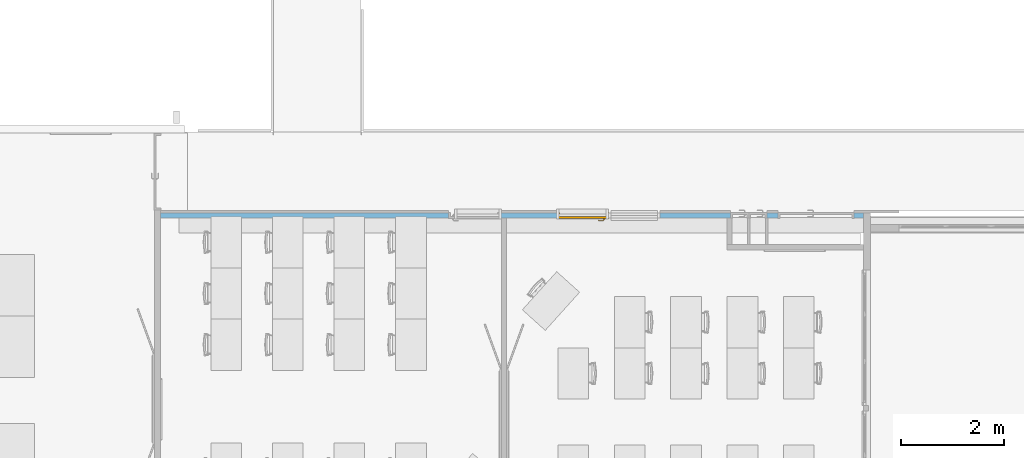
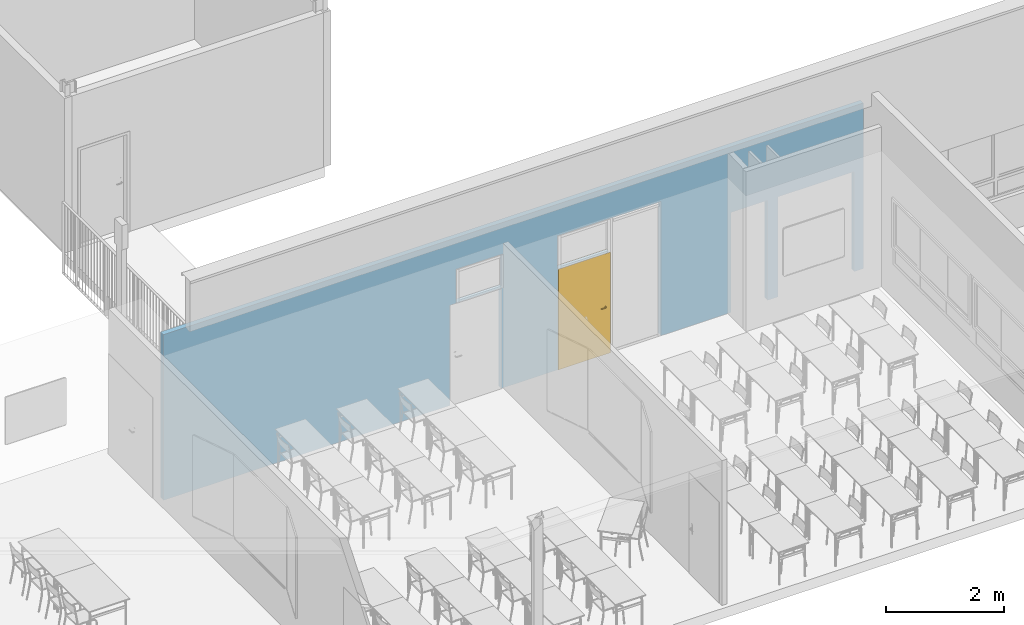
# One storey, part 33 of 44: 1 door, 8 openings, plus 1 element that does not belong to this part.
"""IFC2X3 building model written with IfcOpenShell, lengths in centimetres."""

from ifc_helpers import new_model, entity, si_unit, converted_unit, derived_unit, direction, frame, frame_2d, origin, place, context, subcontext, project, spatial, rectangle, extrude, faceted_brep, source, transform, mapped, material, material_list, layer, layer_set, layer_usage, type_object, type_shapes, element, fill, save


model = new_model("IFC2X3")

# Units and contexts
model_context = context("Model", 3, precision=0.001, world=origin(), true_north=direction((6.12303176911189e-17, 1.0)))
body_context = subcontext(model_context, "Body", "Model", "MODEL_VIEW")
ifc_project = project(units=[si_unit("LENGTHUNIT", "METRE", prefix="CENTI"), si_unit("AREAUNIT", "SQUARE_METRE"), si_unit("VOLUMEUNIT", "CUBIC_METRE"), converted_unit("PLANEANGLEUNIT", "DEGREE", entity("IfcRatioMeasure", 0.0174532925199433), si_unit("PLANEANGLEUNIT", "RADIAN"), dimensions=[0, 0, 0, 0, 0, 0, 0]), si_unit("MASSUNIT", "GRAM", prefix="KILO"), si_unit("TIMEUNIT", "SECOND"), si_unit("FREQUENCYUNIT", "HERTZ"), si_unit("THERMODYNAMICTEMPERATUREUNIT", "DEGREE_CELSIUS"), derived_unit("THERMALTRANSMITTANCEUNIT", [(si_unit("MASSUNIT", "GRAM", prefix="KILO"), 1), (si_unit("THERMODYNAMICTEMPERATUREUNIT", "KELVIN"), -1), (si_unit("TIMEUNIT", "SECOND"), -3)]), derived_unit("VOLUMETRICFLOWRATEUNIT", [(si_unit("LENGTHUNIT", "METRE"), 3), (si_unit("TIMEUNIT", "SECOND"), -1)]), si_unit("ELECTRICCURRENTUNIT", "AMPERE"), si_unit("ELECTRICVOLTAGEUNIT", "VOLT"), si_unit("POWERUNIT", "WATT"), si_unit("FORCEUNIT", "NEWTON", prefix="KILO"), si_unit("ILLUMINANCEUNIT", "LUX"), si_unit("LUMINOUSFLUXUNIT", "LUMEN"), si_unit("LUMINOUSINTENSITYUNIT", "CANDELA"), derived_unit("USERDEFINED", [(si_unit("MASSUNIT", "GRAM", prefix="KILO"), -1), (si_unit("LENGTHUNIT", "METRE"), -2), (si_unit("TIMEUNIT", "SECOND"), 3), (si_unit("LUMINOUSFLUXUNIT", "LUMEN"), 1)]), derived_unit("LINEARVELOCITYUNIT", [(si_unit("LENGTHUNIT", "METRE"), 1), (si_unit("TIMEUNIT", "SECOND"), -1)]), si_unit("PRESSUREUNIT", "PASCAL"), derived_unit("USERDEFINED", [(si_unit("LENGTHUNIT", "METRE"), -2), (si_unit("MASSUNIT", "GRAM", prefix="KILO"), 1), (si_unit("TIMEUNIT", "SECOND"), -2)])], contexts=[model_context])

# Site, building, storey
site_placement = place(None, frame((8.62739174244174, -249.285249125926, 0.0)))
site = spatial("IfcSite", under=ifc_project, at=site_placement, Name="Default", CompositionType="ELEMENT")
building_placement = place(site_placement, origin())
building = spatial("IfcBuilding", under=site, at=building_placement, CompositionType="ELEMENT")
storey_placement = place(building_placement, frame((0.0, 0.0, 343.0)))
storey = spatial("IfcBuildingStorey", under=building, at=storey_placement, Name="R+1", CompositionType="ELEMENT", Elevation=343.0)

# Wall, openings, door
ifc_material_1 = material(Name="Plâtre EXISTANT")
ifc_layer = layer(ifc_material_1, 10.0)
ifc_layer_set = layer_set([ifc_layer], Name="Mur de base:PLA EXISTANT 10")
ifc_layer_usage = layer_usage(ifc_layer_set, "AXIS2", "POSITIVE", -5.0)
wall_type = type_object("IfcWallType", Name="Mur de base:PLA EXISTANT 10", PredefinedType="STANDARD", material=ifc_layer_set)
wall_placement = place(storey_placement, frame((803.905471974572, 770.0, 0.0)))
wall = element("IfcWallStandardCase", 1, at=wall_placement, inside=storey, type_object=wall_type, material=ifc_layer_usage, Name="Mur de base:PLA EXISTANT 10", ObjectType="Mur de base:PLA EXISTANT 10", context=body_context, shape_type="SweptSolid", body=[
    extrude(rectangle(XDim=1370.99935583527, YDim=10.0000000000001, at=frame_2d((685.499677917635, 2.22044604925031e-15), x_axis=(-1.0, 0.0))), origin(), (0.0, 0.0, 1.0), 343.000000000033),
])
opening_1_placement = place(wall_placement, origin())
element("IfcOpeningElement", 2, at=opening_1_placement, cuts=wall, Name="Mur de base:PLA EXISTANT 10", ObjectType="Opening", context=body_context, shape_type="SweptSolid", body=[
    extrude(rectangle(XDim=69.4999999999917, YDim=102.0, at=frame_2d((-5.32907051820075e-14, 0.0), x_axis=(1.0, 0.0))), frame((822.999355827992, -20.2399999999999, 243.249999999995), z_axis=(0.0, 1.0, 0.0), x_axis=(0.0, 0.0, 1.0)), (0.0, 0.0, 1.0), 40.48),
])
opening_2_placement = place(wall_placement, origin())
element("IfcOpeningElement", 3, at=opening_2_placement, cuts=wall, Name="Mur de base:PLA EXISTANT 10", ObjectType="Opening", context=body_context, shape_type="SweptSolid", body=[
    extrude(rectangle(XDim=277.999999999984, YDim=100.0, at=frame_2d((2.16715534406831e-13, 0.0), x_axis=(0.0, 1.0))), frame((923.999355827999, -20.2399999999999, 139.0), z_axis=(0.0, 1.0, 0.0), x_axis=(-1.0, 0.0, 0.0)), (0.0, 0.0, 1.0), 40.48),
])
opening_3_placement = place(wall_placement, origin())
element("IfcOpeningElement", 4, at=opening_3_placement, cuts=wall, Name="Mur de base:PLA EXISTANT 10", ObjectType="Opening", context=body_context, shape_type="SweptSolid", body=[
    extrude(rectangle(XDim=69.4999999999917, YDim=91.9506441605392, at=frame_2d((-2.1316282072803e-13, -5.32907051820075e-14), x_axis=(0.0, 1.0))), frame((619.02467791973, -20.2399999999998, 243.249999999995), z_axis=(0.0, 1.0, 0.0), x_axis=(-1.0, 0.0, 0.0)), (0.0, 0.0, 1.0), 40.48),
])
opening_4_placement = place(wall_placement, frame((873.999355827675, 5.0, 0.0)))
opening_4 = element("IfcOpeningElement", 5, at=opening_4_placement, cuts=wall, Name="Simple(R)_bois_mu:93 x 204 cm:1", ObjectType="Opening", context=body_context, shape_type="SweptSolid", body=[
    extrude(rectangle(XDim=207.499999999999, YDim=99.9999999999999, at=frame_2d((103.749999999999, 50.0), x_axis=(1.0, 0.0))), frame((0.0, 0.0, 0.0), z_axis=(0.0, -1.0, 0.0), x_axis=(0.0, 0.0, 1.0)), (0.0, 0.0, 1.0), 10.0),
])
opening_5_placement = place(wall_placement, frame((661.524677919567, 5.0, 0.0)))
element("IfcOpeningElement", 6, at=opening_5_placement, cuts=wall, Name="Simple(R)_bois_mu:93 x 204 cm:1", ObjectType="Opening", context=body_context, shape_type="SweptSolid", body=[
    extrude(rectangle(XDim=207.499999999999, YDim=99.9999999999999, at=frame_2d((103.749999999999, 50.0), x_axis=(1.0, 0.0))), frame((0.0, 0.0, 0.0), z_axis=(0.0, -1.0, 0.0), x_axis=(0.0, 0.0, 1.0)), (0.0, 0.0, 1.0), 10.0),
])
opening_6_placement = place(wall_placement, frame((1146.99935582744, -5.0, 0.0)))
element("IfcOpeningElement", 7, at=opening_6_placement, cuts=wall, Name="Simple(R)_bois_Existant_mu:30 x 204 cm:1", ObjectType="Opening", context=body_context, shape_type="SweptSolid", body=[
    extrude(rectangle(XDim=206.999999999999, YDim=36.0, at=frame_2d((103.499999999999, 18.0000000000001), x_axis=(1.0, 0.0))), frame((0.0, 0.0, 0.0), z_axis=(0.0, 1.0, 0.0), x_axis=(0.0, 0.0, 1.0)), (0.0, 0.0, 1.0), 10.0),
])
opening_7_placement = place(wall_placement, frame((1111.99935583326, -5.0, 0.0)))
element("IfcOpeningElement", 8, at=opening_7_placement, cuts=wall, Name="Simple(R)_bois_Existant_mu:30 x 204 cm:1", ObjectType="Opening", context=body_context, shape_type="SweptSolid", body=[
    extrude(rectangle(XDim=206.999999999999, YDim=36.0, at=frame_2d((103.499999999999, 18.0000000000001), x_axis=(1.0, 0.0))), frame((0.0, 0.0, 0.0), z_axis=(0.0, 1.0, 0.0), x_axis=(0.0, 0.0, 1.0)), (0.0, 0.0, 1.0), 10.0),
])
opening_8_placement = place(wall_placement, frame((1203.99935583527, -5.0, 0.0)))
element("IfcOpeningElement", 9, at=opening_8_placement, cuts=wall, Name="Double(R)_bois_Existant_mu:143 x 204 cm:1", ObjectType="Opening", context=body_context, shape_type="SweptSolid", body=[
    extrude(rectangle(XDim=206.999999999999, YDim=149.0, at=frame_2d((103.499999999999, 74.5), x_axis=(1.0, 0.0))), frame((0.0, 0.0, 0.0), z_axis=(0.0, 1.0, 0.0), x_axis=(0.0, 0.0, 1.0)), (0.0, 0.0, 1.0), 10.0),
])
ifc_material_2 = material(Name="Porte - Poignée")
ifc_material_3 = material(Name="Porte - Cadre")
ifc_material_4 = material(Name="Porte - Panneau")
ifc_material_list_1 = material_list([ifc_material_2, ifc_material_3, ifc_material_4])
ifc_material_list_2 = material_list([ifc_material_2, ifc_material_3, ifc_material_4])
door_style = type_object("IfcDoorStyle", Name="93 x 204 cm", ConstructionType="NOTDEFINED", OperationType="SINGLE_SWING_LEFT", ParameterTakesPrecedence=False, Sizeable=False, material=ifc_material_list_2)
shared_shape = source(origin(), body_context, "Body", "Brep", [
    faceted_brep([(92.2025298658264, 3.69999999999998, 100.778044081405), (91.7974701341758, 3.69999999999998, 100.778044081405), (91.3999999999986, 3.69999999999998, 100.699999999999), (91.4000000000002, 3.69999999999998, 99.3000000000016), (91.7974701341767, 3.69999999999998, 99.2219559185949), (92.2025298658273, 3.69999999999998, 99.2219559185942), (92.6000000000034, 3.69999999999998, 99.2999999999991), (92.600000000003, 3.69999999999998, 100.699999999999), (91.3999999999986, 5.94852045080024, 100.699999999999), (91.3999999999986, 5.94852045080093, 99.3000000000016), (91.7974701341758, 6.1131579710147, 100.778044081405), (92.2025298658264, 6.2809392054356, 100.778044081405), (90.5838906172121, 7.89957845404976, 100.778044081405), (90.4161093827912, 7.49451872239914, 100.778044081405), (82.0793122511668, 7.49451872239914, 100.778044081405), (81.911531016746, 7.89957845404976, 100.778044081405), (81.1451046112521, 7.13315204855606, 100.778044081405), (81.4315250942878, 6.84673156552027, 100.778044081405), (92.600000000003, 6.44557672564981, 100.699999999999), (92.6000000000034, 6.44557672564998, 99.2999999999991), (92.2025298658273, 6.28093920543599, 99.2219559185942), (91.7974701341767, 6.11315797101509, 99.2219559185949), (90.4161093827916, 7.49451872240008, 99.2219559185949), (90.5838906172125, 7.8995784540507, 99.2219559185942), (81.9115310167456, 7.8995784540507, 99.2219559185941), (82.0793122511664, 7.49451872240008, 99.2219559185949), (81.4315250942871, 6.84673156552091, 99.2219559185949), (81.1451046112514, 7.13315204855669, 99.2219559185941), (90.2514718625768, 7.09704858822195, 100.699999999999), (90.2514718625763, 7.09704858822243, 99.3000000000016), (90.7485281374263, 8.29704858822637, 100.699999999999), (90.7485281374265, 8.29704858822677, 99.2999999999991), (86.247710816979, 7.09704858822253, 100.699999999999), (82.2439497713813, 7.09704858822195, 100.699999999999), (82.2439497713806, 7.09704858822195, 99.3000000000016), (86.247710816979, 7.09704858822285, 99.3000000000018), (86.2477108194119, 7.71249275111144, 100.787811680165), (85.7399422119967, 8.29704858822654, 100.699999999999), (81.7468934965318, 8.29704858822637, 100.699999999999), (86.7554791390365, 8.29704858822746, 99.2999999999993), (81.7468934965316, 8.29704858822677, 99.2999999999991), (86.2477107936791, 7.71249274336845, 99.2121883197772), (80.8640507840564, 7.41420587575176, 100.699999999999), (80.8640507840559, 7.41420587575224, 99.2999999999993), (81.7125789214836, 6.5656777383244, 99.3000000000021), (81.7125789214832, 6.56567773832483, 100.699999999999)], [[[0, 1, 2, 3, 4, 5, 6, 7]], [[8, 9, 3, 2]], [[1, 10, 8, 2]], [[1, 0, 11, 12, 13, 10]], [[14, 15, 16, 17]], [[7, 18, 11, 0]], [[18, 7, 6, 19]], [[6, 5, 20, 19]], [[5, 4, 21, 22, 23, 20]], [[24, 25, 26, 27]], [[4, 3, 9, 21]], [[28, 29, 9, 8]], [[8, 10, 13, 28]], [[18, 30, 12, 11]], [[31, 30, 18, 19]], [[19, 20, 23, 31]], [[21, 9, 29, 22]], [[29, 28, 32, 33, 34, 35]], [[36, 32, 13]], [[37, 38, 15]], [[37, 12, 30]], [[36, 12, 37]], [[14, 32, 36]], [[36, 15, 14]], [[28, 13, 32]], [[32, 14, 33]], [[12, 36, 13]], [[15, 36, 37]], [[30, 31, 39, 40, 38, 37]], [[23, 41, 39]], [[24, 39, 41]], [[39, 31, 23]], [[39, 24, 40]], [[22, 35, 41]], [[41, 23, 22]], [[41, 35, 25]], [[35, 22, 29]], [[34, 25, 35]], [[24, 41, 25]], [[17, 16, 42, 43, 27, 26, 44, 45]], [[45, 44, 34, 33]], [[33, 14, 17, 45]], [[15, 38, 42, 16]], [[43, 42, 38, 40]], [[24, 27, 43, 40]], [[34, 44, 26, 25]]]),
    faceted_brep([(91.7974701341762, -1.30000000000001, 100.778044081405), (92.2025298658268, -1.30000000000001, 100.778044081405), (92.6000000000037, -1.30000000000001, 100.699999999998), (92.6000000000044, -1.30000000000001, 99.2999999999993), (92.2025298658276, -1.30000000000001, 99.2219559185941), (91.797470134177, -1.30000000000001, 99.2219559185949), (91.3999999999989, -1.30000000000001, 99.3000000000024), (91.3999999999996, -1.30000000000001, 100.699999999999), (92.2025298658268, -3.90045754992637, 100.778044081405), (92.6000000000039, -4.06509507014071, 100.699999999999), (91.7974701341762, -3.73267631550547, 100.778044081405), (90.4298602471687, -5.10028620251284, 100.778044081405), (90.5976414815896, -5.50534593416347, 100.778044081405), (81.9142453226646, -5.50534593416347, 100.778044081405), (82.0820265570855, -5.10028620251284, 100.778044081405), (81.4342394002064, -4.4524990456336, 100.778044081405), (81.1478189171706, -4.73891952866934, 100.778044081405), (91.3999999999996, -3.56803879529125, 100.699999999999), (91.3999999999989, -3.56803879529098, 99.3000000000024), (91.797470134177, -3.7326763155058, 99.2219559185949), (92.2025298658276, -3.9004575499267, 99.2219559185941), (90.5976414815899, -5.50534593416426, 99.2219559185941), (90.429860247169, -5.10028620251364, 99.2219559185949), (82.0820265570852, -5.10028620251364, 99.2219559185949), (81.9142453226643, -5.50534593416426, 99.2219559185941), (81.14781891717, -4.73891952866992, 99.2219559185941), (81.4342394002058, -4.45249904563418, 99.2219559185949), (92.6000000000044, -4.06509507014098, 99.2999999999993), (90.762279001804, -5.90281606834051, 100.699999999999), (90.2652227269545, -4.70281606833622, 100.699999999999), (90.2652227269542, -4.70281606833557, 99.3000000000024), (90.7622790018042, -5.90281606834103, 99.2999999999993), (86.2559433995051, -5.31828027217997, 100.787811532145), (86.769230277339, -5.90281606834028, 100.699999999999), (81.7496078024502, -5.90281606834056, 100.699999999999), (86.255943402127, -4.70281606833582, 100.699999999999), (82.2466640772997, -4.70281606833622, 100.699999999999), (86.2559436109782, -4.70281606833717, 99.3000000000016), (82.2466640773, -4.70281606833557, 99.3000000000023), (86.2559434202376, -5.31828027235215, 99.2121884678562), (85.7426572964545, -5.90281606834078, 99.2999999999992), (81.74960780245, -5.90281606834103, 99.2999999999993), (81.7152932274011, -4.17144521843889, 99.3000000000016), (80.8667650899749, -5.01997335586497, 99.2999999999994), (80.8667650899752, -5.01997335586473, 100.699999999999), (81.7152932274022, -4.17144521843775, 100.699999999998)], [[[0, 1, 2, 3, 4, 5, 6, 7]], [[2, 1, 8, 9]], [[1, 0, 10, 11, 12, 8]], [[13, 14, 15, 16]], [[0, 7, 17, 10]], [[18, 17, 7, 6]], [[5, 19, 18, 6]], [[5, 4, 20, 21, 22, 19]], [[23, 24, 25, 26]], [[3, 27, 20, 4]], [[9, 27, 3, 2]], [[9, 8, 12, 28]], [[10, 17, 29, 11]], [[30, 29, 17, 18]], [[18, 19, 22, 30]], [[20, 27, 31, 21]], [[28, 31, 27, 9]], [[12, 32, 33]], [[13, 33, 32]], [[33, 28, 12]], [[33, 13, 34]], [[11, 35, 32]], [[32, 12, 11]], [[32, 35, 14]], [[35, 11, 29]], [[36, 14, 35]], [[13, 32, 14]], [[29, 30, 37, 38, 36, 35]], [[39, 37, 22]], [[40, 41, 24]], [[40, 21, 31]], [[39, 21, 40]], [[23, 37, 39]], [[39, 24, 23]], [[30, 22, 37]], [[37, 23, 38]], [[21, 39, 22]], [[24, 39, 40]], [[31, 28, 33, 34, 41, 40]], [[42, 26, 25, 43, 44, 16, 15, 45]], [[13, 16, 44, 34]], [[36, 45, 15, 14]], [[42, 45, 36, 38]], [[38, 23, 26, 42]], [[24, 41, 43, 25]], [[44, 43, 41, 34]]]),
    faceted_brep([(92.0, 3.19999999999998, 86.4641016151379), (93.0352761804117, 3.19999999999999, 86.6003983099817), (94.0, 3.19999999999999, 87.0), (94.0, 3.19999999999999, 108.0), (93.0352761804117, 3.19999999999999, 108.399601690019), (92.0, 3.19999999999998, 108.535898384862), (90.9647238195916, 3.19999999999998, 108.399601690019), (90.0, 3.19999999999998, 108.0), (90.0, 3.19999999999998, 87.0), (90.9647238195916, 3.19999999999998, 86.6003983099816), (92.0, 3.69999999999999, 108.535898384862), (93.0352761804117, 3.69999999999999, 108.399601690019), (94.0, 3.69999999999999, 108.0), (94.0, 3.69999999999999, 87.0), (93.0352761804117, 3.69999999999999, 86.6003983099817), (92.0, 3.69999999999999, 86.4641016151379), (90.9647238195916, 3.69999999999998, 86.6003983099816), (90.0, 3.69999999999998, 87.0), (90.0, 3.69999999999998, 108.0), (90.9647238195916, 3.69999999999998, 108.399601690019)], [[[0, 1, 2, 3, 4, 5, 6, 7, 8, 9]], [[10, 11, 12, 13, 14, 15, 16, 17, 18, 19]], [[6, 19, 18, 7]], [[5, 10, 19, 6]], [[4, 11, 10, 5]], [[4, 3, 12, 11]], [[12, 3, 2, 13]], [[1, 14, 13, 2]], [[0, 15, 14, 1]], [[9, 16, 15, 0]], [[9, 8, 17, 16]], [[17, 8, 7, 18]]]),
    faceted_brep([(92.0, -1.30000000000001, 86.4641016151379), (93.0352761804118, -1.30000000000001, 86.6003983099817), (94.0, -1.30000000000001, 87.0), (94.0, -1.30000000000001, 108.0), (93.0352761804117, -1.30000000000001, 108.399601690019), (92.0, -1.30000000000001, 108.535898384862), (90.9647238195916, -1.30000000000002, 108.399601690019), (90.0, -1.30000000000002, 108.0), (90.0, -1.30000000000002, 87.0), (90.9647238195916, -1.30000000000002, 86.6003983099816), (94.0, -0.800000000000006, 108.0), (94.0, -0.800000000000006, 87.0), (93.0352761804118, -0.800000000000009, 86.6003983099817), (92.0, -0.800000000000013, 86.4641016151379), (90.9647238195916, -0.800000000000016, 86.6003983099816), (90.0, -0.800000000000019, 87.0), (90.0, -0.800000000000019, 108.0), (90.9647238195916, -0.800000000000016, 108.399601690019), (92.0, -0.800000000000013, 108.535898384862), (93.0352761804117, -0.800000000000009, 108.399601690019)], [[[0, 1, 2, 3, 4, 5, 6, 7, 8, 9]], [[10, 11, 12, 13, 14, 15, 16, 17, 18, 19]], [[1, 12, 11, 2]], [[0, 13, 12, 1]], [[9, 14, 13, 0]], [[9, 8, 15, 14]], [[15, 8, 7, 16]], [[6, 17, 16, 7]], [[5, 18, 17, 6]], [[4, 19, 18, 5]], [[4, 3, 10, 19]], [[10, 3, 2, 11]]]),
    faceted_brep([(101.0, 0.0, 0.0), (102.0, 0.0, 0.0), (102.0, -0.799999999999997, 0.0), (97.5000000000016, -0.799999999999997, 0.0), (97.5000000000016, 3.2, 0.0), (96.5000000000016, 3.2, 0.0), (96.5000000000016, 10.8000000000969, 0.0), (102.0, 10.8000000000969, 0.0), (102.0, 10.0, 0.0), (101.0, 10.0, 0.0), (101.0, 10.0, 207.499999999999), (101.0, 0.0, 207.499999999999), (102.0, 10.0, 208.499999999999), (0.0, 10.0, 208.499999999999), (0.0, 10.0, 0.0), (1.0, 10.0, 0.0), (1.0, 10.0, 207.499999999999), (102.0, 10.8000000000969, 208.499999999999), (96.5000000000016, 10.8000000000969, 203.0), (5.50000000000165, 10.8000000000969, 203.0), (5.50000000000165, 10.8000000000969, 0.0), (0.0, 10.8000000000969, 0.0), (0.0, 10.8000000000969, 208.499999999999), (96.5000000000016, 3.2, 203.0), (97.5000000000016, 3.2, 204.0), (4.50000000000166, 3.2, 204.0), (4.50000000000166, 3.2, 0.0), (5.50000000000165, 3.2, 0.0), (5.50000000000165, 3.2, 203.0), (97.5000000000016, -0.799999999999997, 204.0), (102.0, -0.799999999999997, 208.499999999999), (0.0, -0.799999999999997, 208.499999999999), (0.0, -0.799999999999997, 0.0), (4.50000000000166, -0.799999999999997, 0.0), (4.50000000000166, -0.799999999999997, 204.0), (102.0, 0.0, 208.499999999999), (1.0, 0.0, 207.499999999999), (1.0, 0.0, 0.0), (0.0, 0.0, 0.0), (0.0, 0.0, 208.499999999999)], [[[0, 1, 2, 3, 4, 5, 6, 7, 8, 9]], [[9, 10, 11, 0]], [[8, 12, 13, 14, 15, 16, 10, 9]], [[7, 17, 12, 8]], [[6, 18, 19, 20, 21, 22, 17, 7]], [[5, 23, 18, 6]], [[4, 24, 25, 26, 27, 28, 23, 5]], [[3, 29, 24, 4]], [[2, 30, 31, 32, 33, 34, 29, 3]], [[1, 35, 30, 2]], [[0, 11, 36, 37, 38, 39, 35, 1]], [[16, 15, 37, 36]], [[37, 15, 14, 21, 20, 27, 26, 33, 32, 38]], [[22, 21, 14, 13]], [[28, 27, 20, 19]], [[34, 33, 26, 25]], [[39, 38, 32, 31]], [[10, 16, 36, 11]], [[17, 22, 13, 12]], [[23, 28, 19, 18]], [[29, 34, 25, 24]], [[35, 39, 31, 30]]]),
    faceted_brep([(97.5000000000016, -0.799999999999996, 204.0), (4.50000000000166, -0.799999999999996, 204.0), (4.50000000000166, -0.799999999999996, 0.0), (97.5000000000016, -0.799999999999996, 0.0), (97.5000000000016, 3.2, 204.0), (97.5000000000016, 3.2, 0.0), (4.50000000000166, 3.2, 0.0), (4.50000000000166, 3.2, 204.0)], [[[0, 1, 2, 3]], [[4, 5, 6, 7]], [[3, 5, 4, 0]], [[2, 6, 5, 3]], [[1, 7, 6, 2]], [[0, 4, 7, 1]]]),
])
type_shapes(door_style, [shared_shape])
door_placement = place(opening_4_placement, frame((-101.0, -10.0, 0.0)))
door = element("IfcDoor", 10, at=door_placement, inside=storey, type_object=door_style, material=ifc_material_list_1, Name="Simple(R)_bois_mu:93 x 204 cm", ObjectType="93 x 204 cm", OverallHeight=207.499999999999, OverallWidth=100.0, context=body_context, shape_type="MappedRepresentation", body=[
    mapped(shared_shape, transform((0.0, 0.0, 0.0), scale=1.0)),
])
fill(opening_4, door)

save(model, "model.ifc")
